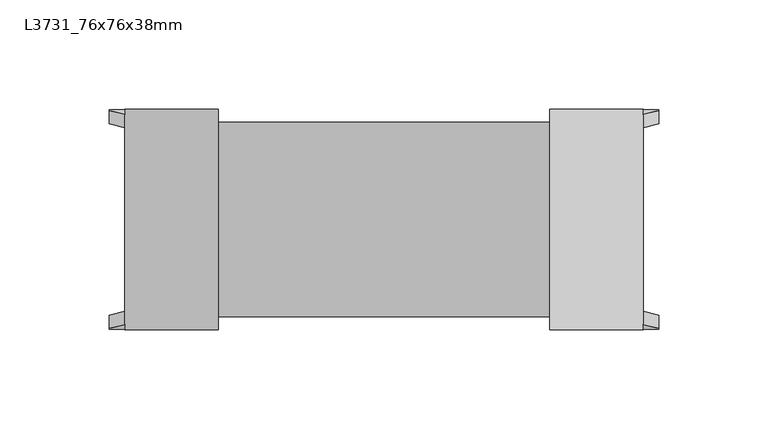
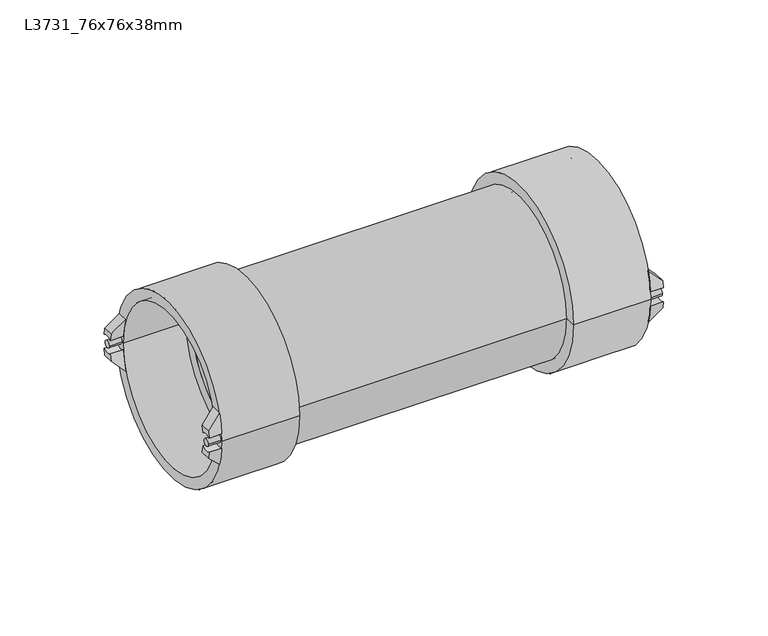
"""IFC4 building model written with IfcOpenShell, lengths in millimetres: pipe fitting geometry, Durapipe_PipeFitting_VulcatheneEnfusion_SingleReducingWye_L37 : L3731_76x76x38mm."""

from ifc_helpers import new_model, si_unit, point, frame, frame_2d, origin, place, context, project, spatial, polyline, circle_curve, ellipse_curve, trimmed, segment, composite_curve, outline, extrude, source, transform, mapped, element, save
from ifc_brep_helpers import plane_surface, cylinder_surface, revolved_surface, advanced_brep


def l3731_76x76x38mm_20f7461c(model_context):
    return source(origin(), model_context, "Body", "SolidModel", [
        advanced_brep(
        [(187.9, -44.4771742, -3.9247261), (187.9, -50.3271742, -4.1743906), (187.9, -49.8718999, -7.94), (187.9, -43.9383534, -7.94), (180.8, -48.2208461, -15.0), (180.8, -50.3271742, -4.1743906), (180.8, -44.4771742, -3.9247261), (180.8, -42.0549938, -15.0)],
        [
            (0, 1, circle_curve(frame((187.9, -47.575, 0.0), z_axis=(-1.0, 0.0, 0.0), x_axis=(0.0, 1.0, 0.0)), 5.0)),
            (1, 2, circle_curve(frame((187.9, 0.0, 0.0), z_axis=(1.0, 0.0, 0.0), x_axis=(0.0, 1.0, 0.0)), 50.5)),
            (2, 3),
            (3, 0, circle_curve(frame((187.9, 0.0, 0.0), z_axis=(-1.0, 0.0, 0.0), x_axis=(0.0, 1.0, 0.0)), 44.65)),
            (4, 5, circle_curve(frame((180.8, 0.0, 0.0), z_axis=(-1.0, 0.0, 0.0), x_axis=(0.0, 1.0, 0.0)), 50.5)),
            (5, 6, circle_curve(frame((180.8, -47.575, 0.0), z_axis=(1.0, 0.0, 0.0), x_axis=(0.0, 1.0, 0.0)), 5.0)),
            (6, 7, circle_curve(frame((180.8, 0.0, 0.0), z_axis=(1.0, 0.0, 0.0), x_axis=(0.0, 1.0, 0.0)), 44.65)),
            (7, 4),
            (6, 0),
            (3, 7, ellipse_curve(frame((195.8849858, 0.0, 0.0), z_axis=(0.705106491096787, 0.0, -0.7091014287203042), x_axis=(-0.7091014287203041, 0.0, -0.705106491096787)), 63.3237682, 44.65)),
            (4, 2, ellipse_curve(frame((195.8849858, 0.0, 0.0), z_axis=(-0.705106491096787, 0.0, 0.7091014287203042), x_axis=(0.7091014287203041, 0.0, 0.705106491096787)), 71.6203873, 50.5)),
            (1, 5),
        ],
        [
            plane_surface(frame((187.9, -48.2208461, -15.0), z_axis=(1.0, 0.0, 0.0), x_axis=(0.0, 1.0, 0.0))),
            plane_surface(frame((180.8, -48.2208461, -15.0), z_axis=(-1.0, 0.0, 0.0), x_axis=(0.0, -1.0, 0.0))),
            revolved_surface(polyline([(150.98201129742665, 44.65, 0.0), (240.78796030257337, 44.65, 0.0)]), (180.8, 0.0, 0.0), (-1.0, 0.0, 0.0)),
            cylinder_surface(frame((180.8, 0.0, 0.0), z_axis=(1.0, 0.0, 0.0), x_axis=(0.0, 1.0, 0.0)), 50.5),
            revolved_surface(polyline([(187.9, -42.575, 0.0), (180.8, -42.575, 0.0)]), (180.8, -47.575, 0.0), (1.0, 0.0, 0.0)),
            plane_surface(frame((180.8, 50.5, -15.0), z_axis=(0.705106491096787, 0.0, -0.7091014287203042), x_axis=(0.0, -1.0, 0.0))),
        ],
        [
            (0, [[1, 2, 3, 4]]),
            (1, [[5, 6, 7, 8]]),
            (2, [[-7, 9, -4, 10]]),
            (3, [[-5, 11, -2, 12]]),
            (4, [[-1, -9, -6, -12]]),
            (5, [[-3, -11, -8, -10]]),
        ],
    ),
        advanced_brep(
        [(187.9, -50.3271742, 4.1743906), (187.9, -44.4771742, 3.9247261), (187.9, -43.9383534, 7.94), (187.9, -49.8718999, 7.94), (180.8, -50.3271742, 4.1743906), (180.8, -48.2208461, 15.0), (180.8, -42.0549938, 15.0), (180.8, -44.4771742, 3.9247261)],
        [
            (0, 1, circle_curve(frame((187.9, -47.575, 0.0), z_axis=(-1.0, 0.0, 0.0), x_axis=(0.0, 1.0, 0.0)), 5.0)),
            (1, 2, circle_curve(frame((187.9, 0.0, 0.0), z_axis=(-1.0, 0.0, 0.0), x_axis=(0.0, 1.0, 0.0)), 44.65)),
            (2, 3),
            (3, 0, circle_curve(frame((187.9, 0.0, 0.0), z_axis=(1.0, 0.0, 0.0), x_axis=(0.0, 1.0, 0.0)), 50.5)),
            (4, 5, circle_curve(frame((180.8, 0.0, 0.0), z_axis=(-1.0, 0.0, 0.0), x_axis=(0.0, 1.0, 0.0)), 50.5)),
            (5, 6),
            (6, 7, circle_curve(frame((180.8, 0.0, 0.0), z_axis=(1.0, 0.0, 0.0), x_axis=(0.0, 1.0, 0.0)), 44.65)),
            (7, 4, circle_curve(frame((180.8, -47.575, 0.0), z_axis=(1.0, 0.0, 0.0), x_axis=(0.0, 1.0, 0.0)), 5.0)),
            (6, 2, ellipse_curve(frame((195.8849858, 0.0, 0.0), z_axis=(0.7051064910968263, 0.0, 0.7091014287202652), x_axis=(-0.7091014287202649, 0.0, 0.7051064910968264)), 63.3237682, 44.65)),
            (1, 7),
            (4, 0),
            (3, 5, ellipse_curve(frame((195.8849858, 0.0, 0.0), z_axis=(-0.7051064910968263, 0.0, -0.7091014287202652), x_axis=(0.7091014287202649, 0.0, -0.7051064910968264)), 71.6203873, 50.5)),
        ],
        [
            plane_surface(frame((187.9, -48.2208461, -15.0), z_axis=(1.0, 0.0, 0.0), x_axis=(0.0, 1.0, 0.0))),
            plane_surface(frame((180.8, -48.2208461, -15.0), z_axis=(-1.0, 0.0, 0.0), x_axis=(0.0, -1.0, 0.0))),
            revolved_surface(polyline([(150.98201129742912, 44.65, 0.0), (240.7879603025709, 44.65, 0.0)]), (180.8, 0.0, 0.0), (-1.0, 0.0, 0.0)),
            cylinder_surface(frame((180.8, 0.0, 0.0), z_axis=(1.0, 0.0, 0.0), x_axis=(0.0, 1.0, 0.0)), 50.5),
            revolved_surface(polyline([(187.9, -42.575, 0.0), (180.8, -42.575, 0.0)]), (180.8, -47.575, 0.0), (1.0, 0.0, 0.0)),
            plane_surface(frame((187.9, 50.5, 7.94), z_axis=(0.7051064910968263, 0.0, 0.7091014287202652), x_axis=(0.0, -1.0, 0.0))),
        ],
        [
            (0, [[1, 2, 3, 4]]),
            (1, [[5, 6, 7, 8]]),
            (2, [[-7, 9, -2, 10]]),
            (3, [[-5, 11, -4, 12]]),
            (4, [[-1, -11, -8, -10]]),
            (5, [[-3, -9, -6, -12]]),
        ],
    ),
        advanced_brep(
        [(187.9, 50.3271742, -4.1743906), (187.9, 44.4771742, -3.9247261), (187.9, 43.9383534, -7.94), (187.9, 49.8718999, -7.94), (180.8, 50.3271742, -4.1743906), (180.8, 48.2208461, -15.0), (180.8, 42.0549938, -15.0), (180.8, 44.4771742, -3.9247261)],
        [
            (0, 1, circle_curve(frame((187.9, 47.575, 0.0), z_axis=(-1.0, 0.0, 0.0), x_axis=(0.0, 1.0, 0.0)), 5.0)),
            (1, 2, circle_curve(frame((187.9, 0.0, 0.0), z_axis=(-1.0, 0.0, 0.0), x_axis=(0.0, 1.0, 0.0)), 44.65)),
            (2, 3),
            (3, 0, circle_curve(frame((187.9, 0.0, 0.0), z_axis=(1.0, 0.0, 0.0), x_axis=(0.0, 1.0, 0.0)), 50.5)),
            (4, 5, circle_curve(frame((180.8, 0.0, 0.0), z_axis=(-1.0, 0.0, 0.0), x_axis=(0.0, 1.0, 0.0)), 50.5)),
            (5, 6),
            (6, 7, circle_curve(frame((180.8, 0.0, 0.0), z_axis=(1.0, 0.0, 0.0), x_axis=(0.0, 1.0, 0.0)), 44.65)),
            (7, 4, circle_curve(frame((180.8, 47.575, 0.0), z_axis=(1.0, 0.0, 0.0), x_axis=(0.0, 1.0, 0.0)), 5.0)),
            (6, 2, ellipse_curve(frame((195.8849858, 0.0, 0.0), z_axis=(0.705106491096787, 0.0, -0.7091014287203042), x_axis=(-0.7091014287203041, 0.0, -0.705106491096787)), 63.3237682, 44.65)),
            (1, 7),
            (4, 0),
            (3, 5, ellipse_curve(frame((195.8849858, 0.0, 0.0), z_axis=(-0.705106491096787, 0.0, 0.7091014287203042), x_axis=(0.7091014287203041, 0.0, 0.705106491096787)), 71.6203873, 50.5)),
        ],
        [
            plane_surface(frame((187.9, -48.2208461, -15.0), z_axis=(1.0, 0.0, 0.0), x_axis=(0.0, 1.0, 0.0))),
            plane_surface(frame((180.8, -48.2208461, -15.0), z_axis=(-1.0, 0.0, 0.0), x_axis=(0.0, -1.0, 0.0))),
            revolved_surface(polyline([(150.98201129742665, 44.65, 0.0), (240.78796030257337, 44.65, 0.0)]), (180.8, 0.0, 0.0), (-1.0, 0.0, 0.0)),
            cylinder_surface(frame((180.8, 0.0, 0.0), z_axis=(1.0, 0.0, 0.0), x_axis=(0.0, 1.0, 0.0)), 50.5),
            revolved_surface(polyline([(187.9, 52.575, 0.0), (180.8, 52.575, 0.0)]), (180.8, 47.575, 0.0), (1.0, 0.0, 0.0)),
            plane_surface(frame((180.8, 50.5, -15.0), z_axis=(0.705106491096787, 0.0, -0.7091014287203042), x_axis=(0.0, -1.0, 0.0))),
        ],
        [
            (0, [[1, 2, 3, 4]]),
            (1, [[5, 6, 7, 8]]),
            (2, [[-7, 9, -2, 10]]),
            (3, [[-5, 11, -4, 12]]),
            (4, [[-1, -11, -8, -10]]),
            (5, [[-3, -9, -6, -12]]),
        ],
    ),
        advanced_brep(
        [(187.9, 44.4771742, 3.9247261), (187.9, 50.3271742, 4.1743906), (187.9, 49.8718999, 7.94), (187.9, 43.9383534, 7.94), (180.8, 48.2208461, 15.0), (180.8, 50.3271742, 4.1743906), (180.8, 44.4771742, 3.9247261), (180.8, 42.0549938, 15.0)],
        [
            (0, 1, circle_curve(frame((187.9, 47.575, 0.0), z_axis=(-1.0, 0.0, 0.0), x_axis=(0.0, 1.0, 0.0)), 5.0)),
            (1, 2, circle_curve(frame((187.9, 0.0, 0.0), z_axis=(1.0, 0.0, 0.0), x_axis=(0.0, 1.0, 0.0)), 50.5)),
            (2, 3),
            (3, 0, circle_curve(frame((187.9, 0.0, 0.0), z_axis=(-1.0, 0.0, 0.0), x_axis=(0.0, 1.0, 0.0)), 44.65)),
            (4, 5, circle_curve(frame((180.8, 0.0, 0.0), z_axis=(-1.0, 0.0, 0.0), x_axis=(0.0, 1.0, 0.0)), 50.5)),
            (5, 6, circle_curve(frame((180.8, 47.575, 0.0), z_axis=(1.0, 0.0, 0.0), x_axis=(0.0, 1.0, 0.0)), 5.0)),
            (6, 7, circle_curve(frame((180.8, 0.0, 0.0), z_axis=(1.0, 0.0, 0.0), x_axis=(0.0, 1.0, 0.0)), 44.65)),
            (7, 4),
            (6, 0),
            (3, 7, ellipse_curve(frame((195.8849858, 0.0, 0.0), z_axis=(0.7051064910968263, 0.0, 0.7091014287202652), x_axis=(-0.7091014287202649, 0.0, 0.7051064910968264)), 63.3237682, 44.65)),
            (4, 2, ellipse_curve(frame((195.8849858, 0.0, 0.0), z_axis=(-0.7051064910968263, 0.0, -0.7091014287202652), x_axis=(0.7091014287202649, 0.0, -0.7051064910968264)), 71.6203873, 50.5)),
            (1, 5),
        ],
        [
            plane_surface(frame((187.9, -48.2208461, -15.0), z_axis=(1.0, 0.0, 0.0), x_axis=(0.0, 1.0, 0.0))),
            plane_surface(frame((180.8, -48.2208461, -15.0), z_axis=(-1.0, 0.0, 0.0), x_axis=(0.0, -1.0, 0.0))),
            revolved_surface(polyline([(150.98201129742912, 44.65, 0.0), (240.7879603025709, 44.65, 0.0)]), (180.8, 0.0, 0.0), (-1.0, 0.0, 0.0)),
            cylinder_surface(frame((180.8, 0.0, 0.0), z_axis=(1.0, 0.0, 0.0), x_axis=(0.0, 1.0, 0.0)), 50.5),
            revolved_surface(polyline([(187.9, 52.575, 0.0), (180.8, 52.575, 0.0)]), (180.8, 47.575, 0.0), (1.0, 0.0, 0.0)),
            plane_surface(frame((187.9, 50.5, 7.94), z_axis=(0.7051064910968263, 0.0, 0.7091014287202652), x_axis=(0.0, -1.0, 0.0))),
        ],
        [
            (0, [[1, 2, 3, 4]]),
            (1, [[5, 6, 7, 8]]),
            (2, [[-7, 9, -4, 10]]),
            (3, [[-5, 11, -2, 12]]),
            (4, [[-1, -9, -6, -12]]),
            (5, [[-3, -11, -8, -10]]),
        ],
    ),
        extrude(outline(composite_curve([segment(trimmed(circle_curve(frame_2d((-47.575, 0.0)), 2.0), [point((-49.575, 0.0))], [point((-45.575, 0.0))], False, "CARTESIAN"), True, "CONTINUOUS"), segment(trimmed(circle_curve(frame_2d((-47.575, 0.0)), 2.0), [point((-45.575, 0.0))], [point((-49.575, 0.0))], False, "CARTESIAN"), True, "CONTINUOUS")], self_intersect=False)), frame((180.8, 0.0, 0.0), z_axis=(1.0, 0.0, 0.0), x_axis=(0.0, 1.0, 0.0)), (0.0, 0.0, 1.0), 7.1),
        extrude(outline(composite_curve([segment(trimmed(circle_curve(frame_2d((47.575, 0.0)), 2.0), [point((45.575, 0.0))], [point((49.575, 0.0))], False, "CARTESIAN"), True, "CONTINUOUS"), segment(trimmed(circle_curve(frame_2d((47.575, 0.0)), 2.0), [point((49.575, 0.0))], [point((45.575, 0.0))], False, "CARTESIAN"), True, "CONTINUOUS")], self_intersect=False)), frame((180.8, 0.0, 0.0), z_axis=(1.0, 0.0, 0.0), x_axis=(0.0, 1.0, 0.0)), (0.0, 0.0, 1.0), 7.1),
        advanced_brep(
        [(145.8, -38.0, 0.0), (145.8, 38.0, 0.0), (145.8, 44.5, 0.0), (145.8, -44.5, 0.0), (137.8, -38.0, 0.0), (137.8, 38.0, 0.0), (137.8, -50.65, 0.0), (137.8, 50.65, 0.0), (180.8, -50.65, 0.0), (180.8, 50.65, 0.0), (180.8, -44.5, 0.0), (180.8, 44.5, 0.0)],
        [
            (0, 1, circle_curve(frame((145.8, 0.0, 0.0), z_axis=(-1.0, 0.0, 0.0), x_axis=(0.0, 1.0, 0.0)), 38.0)),
            (1, 2),
            (2, 3, circle_curve(frame((145.8, 0.0, 0.0), z_axis=(1.0, 0.0, 0.0), x_axis=(0.0, 1.0, 0.0)), 44.5)),
            (3, 0),
            (1, 0, circle_curve(frame((145.8, 0.0, 0.0), z_axis=(-1.0, 0.0, 0.0), x_axis=(0.0, 1.0, 0.0)), 38.0)),
            (3, 2, circle_curve(frame((145.8, 0.0, 0.0), z_axis=(1.0, 0.0, 0.0), x_axis=(0.0, 1.0, 0.0)), 44.5)),
            (4, 5, circle_curve(frame((137.8, 0.0, 0.0), z_axis=(-1.0, 0.0, 0.0), x_axis=(0.0, 1.0, 0.0)), 38.0)),
            (5, 1),
            (0, 4),
            (5, 4, circle_curve(frame((137.8, 0.0, 0.0), z_axis=(-1.0, 0.0, 0.0), x_axis=(0.0, 1.0, 0.0)), 38.0)),
            (6, 7, circle_curve(frame((137.8, 0.0, 0.0), z_axis=(-1.0, 0.0, 0.0), x_axis=(0.0, 1.0, 0.0)), 50.65)),
            (7, 5),
            (4, 6),
            (7, 6, circle_curve(frame((137.8, 0.0, 0.0), z_axis=(-1.0, 0.0, 0.0), x_axis=(0.0, 1.0, 0.0)), 50.65)),
            (8, 9, circle_curve(frame((180.8, 0.0, 0.0), z_axis=(-1.0, 0.0, 0.0), x_axis=(0.0, 1.0, 0.0)), 50.65)),
            (9, 7),
            (6, 8),
            (9, 8, circle_curve(frame((180.8, 0.0, 0.0), z_axis=(-1.0, 0.0, 0.0), x_axis=(0.0, 1.0, 0.0)), 50.65)),
            (10, 11, circle_curve(frame((180.8, 0.0, 0.0), z_axis=(-1.0, 0.0, 0.0), x_axis=(0.0, 1.0, 0.0)), 44.5)),
            (11, 9),
            (8, 10),
            (11, 10, circle_curve(frame((180.8, 0.0, 0.0), z_axis=(-1.0, 0.0, 0.0), x_axis=(0.0, 1.0, 0.0)), 44.5)),
            (2, 11),
            (10, 3),
        ],
        [
            plane_surface(frame((145.8, 0.0, 0.0), z_axis=(1.0, 0.0, 0.0), x_axis=(0.0, 1.0, 0.0))),
            revolved_surface(polyline([(145.80000000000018, 38.0, 0.0), (137.80000000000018, 38.0, 0.0)]), (2694.7826241, 0.0, 0.0), (1.0, 0.0, 0.0)),
            plane_surface(frame((137.8, 0.0, 0.0), z_axis=(-1.0, 0.0, 0.0), x_axis=(0.0, 1.0, 0.0))),
            cylinder_surface(frame((2694.7826241, 0.0, 0.0), z_axis=(1.0, 0.0, 0.0), x_axis=(0.0, 1.0, 0.0)), 50.65),
            plane_surface(frame((180.8, 0.0, 0.0), z_axis=(1.0, 0.0, 0.0), x_axis=(0.0, 1.0, 0.0))),
            revolved_surface(polyline([(180.80000000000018, 44.5, 0.0), (145.80000000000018, 44.5, 0.0)]), (2694.7826241, 0.0, 0.0), (1.0, 0.0, 0.0)),
        ],
        [
            (0, [[1, 2, 3, 4]]),
            (0, [[5, -4, 6, -2]]),
            (1, [[7, 8, -1, 9]]),
            (1, [[10, -9, -5, -8]]),
            (2, [[11, 12, -7, 13]]),
            (2, [[14, -13, -10, -12]]),
            (3, [[15, 16, -11, 17]]),
            (3, [[18, -17, -14, -16]]),
            (4, [[19, 20, -15, 21]]),
            (4, [[22, -21, -18, -20]]),
            (5, [[-3, 23, -19, 24]]),
            (5, [[-6, -24, -22, -23]]),
        ],
    ),
        advanced_brep(
        [(-64.3, -44.4771742, 3.9247261), (-64.3, -50.3271742, 4.1743906), (-64.3, -49.8718999, 7.94), (-64.3, -43.9383534, 7.94), (-57.2, -48.2208461, 15.0), (-57.2, -50.3271742, 4.1743906), (-57.2, -44.4771742, 3.9247261), (-57.2, -42.0549938, 15.0)],
        [
            (0, 1, circle_curve(frame((-64.3, -47.575, 0.0), z_axis=(1.0, 0.0, 0.0), x_axis=(0.0, 1.0, 0.0)), 5.0)),
            (1, 2, circle_curve(frame((-64.3, 0.0, 0.0), z_axis=(-1.0, 0.0, 0.0), x_axis=(0.0, 1.0, 0.0)), 50.5)),
            (2, 3),
            (3, 0, circle_curve(frame((-64.3, 0.0, 0.0), z_axis=(1.0, 0.0, 0.0), x_axis=(0.0, 1.0, 0.0)), 44.65)),
            (4, 5, circle_curve(frame((-57.2, 0.0, 0.0), z_axis=(1.0, 0.0, 0.0), x_axis=(0.0, 1.0, 0.0)), 50.5)),
            (5, 6, circle_curve(frame((-57.2, -47.575, 0.0), z_axis=(-1.0, 0.0, 0.0), x_axis=(0.0, 1.0, 0.0)), 5.0)),
            (6, 7, circle_curve(frame((-57.2, 0.0, 0.0), z_axis=(-1.0, 0.0, 0.0), x_axis=(0.0, 1.0, 0.0)), 44.65)),
            (7, 4),
            (6, 0),
            (3, 7, ellipse_curve(frame((-72.2849858, 0.0, 0.0), z_axis=(-0.705106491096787, 0.0, 0.7091014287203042), x_axis=(0.7091014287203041, 0.0, 0.705106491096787)), 63.3237682, 44.65)),
            (4, 2, ellipse_curve(frame((-72.2849858, 0.0, 0.0), z_axis=(0.705106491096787, 0.0, -0.7091014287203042), x_axis=(-0.7091014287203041, 0.0, -0.705106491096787)), 71.6203873, 50.5)),
            (1, 5),
        ],
        [
            plane_surface(frame((-64.3, -48.2208461, 15.0), z_axis=(-1.0, 0.0, 0.0), x_axis=(0.0, 1.0, 0.0))),
            plane_surface(frame((-57.2, -48.2208461, 15.0), z_axis=(1.0, 0.0, 0.0), x_axis=(0.0, -1.0, 0.0))),
            revolved_surface(polyline([(-27.382011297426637, 44.65, 0.0), (-117.18796030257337, 44.65, 0.0)]), (-57.2, 0.0, 0.0), (1.0, 0.0, 0.0)),
            cylinder_surface(frame((-57.2, 0.0, 0.0), z_axis=(-1.0, 0.0, 0.0), x_axis=(0.0, 1.0, 0.0)), 50.5),
            revolved_surface(polyline([(-64.3, -42.575, 0.0), (-57.2, -42.575, 0.0)]), (-57.2, -47.575, 0.0), (-1.0, 0.0, 0.0)),
            plane_surface(frame((-57.2, 50.5, 15.0), z_axis=(-0.705106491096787, 0.0, 0.7091014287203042), x_axis=(0.0, -1.0, 0.0))),
        ],
        [
            (0, [[1, 2, 3, 4]]),
            (1, [[5, 6, 7, 8]]),
            (2, [[-7, 9, -4, 10]]),
            (3, [[-5, 11, -2, 12]]),
            (4, [[-1, -9, -6, -12]]),
            (5, [[-3, -11, -8, -10]]),
        ],
    ),
        advanced_brep(
        [(-64.3, -50.3271742, -4.1743906), (-64.3, -44.4771742, -3.9247261), (-64.3, -43.9383534, -7.94), (-64.3, -49.8718999, -7.94), (-57.2, -50.3271742, -4.1743906), (-57.2, -48.2208461, -15.0), (-57.2, -42.0549938, -15.0), (-57.2, -44.4771742, -3.9247261)],
        [
            (0, 1, circle_curve(frame((-64.3, -47.575, 0.0), z_axis=(1.0, 0.0, 0.0), x_axis=(0.0, 1.0, 0.0)), 5.0)),
            (1, 2, circle_curve(frame((-64.3, 0.0, 0.0), z_axis=(1.0, 0.0, 0.0), x_axis=(0.0, 1.0, 0.0)), 44.65)),
            (2, 3),
            (3, 0, circle_curve(frame((-64.3, 0.0, 0.0), z_axis=(-1.0, 0.0, 0.0), x_axis=(0.0, 1.0, 0.0)), 50.5)),
            (4, 5, circle_curve(frame((-57.2, 0.0, 0.0), z_axis=(1.0, 0.0, 0.0), x_axis=(0.0, 1.0, 0.0)), 50.5)),
            (5, 6),
            (6, 7, circle_curve(frame((-57.2, 0.0, 0.0), z_axis=(-1.0, 0.0, 0.0), x_axis=(0.0, 1.0, 0.0)), 44.65)),
            (7, 4, circle_curve(frame((-57.2, -47.575, 0.0), z_axis=(-1.0, 0.0, 0.0), x_axis=(0.0, 1.0, 0.0)), 5.0)),
            (6, 2, ellipse_curve(frame((-72.2849858, 0.0, 0.0), z_axis=(-0.7051064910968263, 0.0, -0.7091014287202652), x_axis=(0.7091014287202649, 0.0, -0.7051064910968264)), 63.3237682, 44.65)),
            (1, 7),
            (4, 0),
            (3, 5, ellipse_curve(frame((-72.2849858, 0.0, 0.0), z_axis=(0.7051064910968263, 0.0, 0.7091014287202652), x_axis=(-0.7091014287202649, 0.0, 0.7051064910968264)), 71.6203873, 50.5)),
        ],
        [
            plane_surface(frame((-64.3, -48.2208461, 15.0), z_axis=(-1.0, 0.0, 0.0), x_axis=(0.0, 1.0, 0.0))),
            plane_surface(frame((-57.2, -48.2208461, 15.0), z_axis=(1.0, 0.0, 0.0), x_axis=(0.0, -1.0, 0.0))),
            revolved_surface(polyline([(-27.382011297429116, 44.65, 0.0), (-117.18796030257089, 44.65, 0.0)]), (-57.2, 0.0, 0.0), (1.0, 0.0, 0.0)),
            cylinder_surface(frame((-57.2, 0.0, 0.0), z_axis=(-1.0, 0.0, 0.0), x_axis=(0.0, 1.0, 0.0)), 50.5),
            revolved_surface(polyline([(-64.3, -42.575, 0.0), (-57.2, -42.575, 0.0)]), (-57.2, -47.575, 0.0), (-1.0, 0.0, 0.0)),
            plane_surface(frame((-64.3, 50.5, -7.94), z_axis=(-0.7051064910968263, 0.0, -0.7091014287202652), x_axis=(0.0, -1.0, 0.0))),
        ],
        [
            (0, [[1, 2, 3, 4]]),
            (1, [[5, 6, 7, 8]]),
            (2, [[-7, 9, -2, 10]]),
            (3, [[-5, 11, -4, 12]]),
            (4, [[-1, -11, -8, -10]]),
            (5, [[-3, -9, -6, -12]]),
        ],
    ),
        advanced_brep(
        [(-64.3, 50.3271742, 4.1743906), (-64.3, 44.4771742, 3.9247261), (-64.3, 43.9383534, 7.94), (-64.3, 49.8718999, 7.94), (-57.2, 50.3271742, 4.1743906), (-57.2, 48.2208461, 15.0), (-57.2, 42.0549938, 15.0), (-57.2, 44.4771742, 3.9247261)],
        [
            (0, 1, circle_curve(frame((-64.3, 47.575, 0.0), z_axis=(1.0, 0.0, 0.0), x_axis=(0.0, 1.0, 0.0)), 5.0)),
            (1, 2, circle_curve(frame((-64.3, 0.0, 0.0), z_axis=(1.0, 0.0, 0.0), x_axis=(0.0, 1.0, 0.0)), 44.65)),
            (2, 3),
            (3, 0, circle_curve(frame((-64.3, 0.0, 0.0), z_axis=(-1.0, 0.0, 0.0), x_axis=(0.0, 1.0, 0.0)), 50.5)),
            (4, 5, circle_curve(frame((-57.2, 0.0, 0.0), z_axis=(1.0, 0.0, 0.0), x_axis=(0.0, 1.0, 0.0)), 50.5)),
            (5, 6),
            (6, 7, circle_curve(frame((-57.2, 0.0, 0.0), z_axis=(-1.0, 0.0, 0.0), x_axis=(0.0, 1.0, 0.0)), 44.65)),
            (7, 4, circle_curve(frame((-57.2, 47.575, 0.0), z_axis=(-1.0, 0.0, 0.0), x_axis=(0.0, 1.0, 0.0)), 5.0)),
            (6, 2, ellipse_curve(frame((-72.2849858, 0.0, 0.0), z_axis=(-0.705106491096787, 0.0, 0.7091014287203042), x_axis=(0.7091014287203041, 0.0, 0.705106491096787)), 63.3237682, 44.65)),
            (1, 7),
            (4, 0),
            (3, 5, ellipse_curve(frame((-72.2849858, 0.0, 0.0), z_axis=(0.705106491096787, 0.0, -0.7091014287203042), x_axis=(-0.7091014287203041, 0.0, -0.705106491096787)), 71.6203873, 50.5)),
        ],
        [
            plane_surface(frame((-64.3, -48.2208461, 15.0), z_axis=(-1.0, 0.0, 0.0), x_axis=(0.0, 1.0, 0.0))),
            plane_surface(frame((-57.2, -48.2208461, 15.0), z_axis=(1.0, 0.0, 0.0), x_axis=(0.0, -1.0, 0.0))),
            revolved_surface(polyline([(-27.382011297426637, 44.65, 0.0), (-117.18796030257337, 44.65, 0.0)]), (-57.2, 0.0, 0.0), (1.0, 0.0, 0.0)),
            cylinder_surface(frame((-57.2, 0.0, 0.0), z_axis=(-1.0, 0.0, 0.0), x_axis=(0.0, 1.0, 0.0)), 50.5),
            revolved_surface(polyline([(-64.3, 52.575, 0.0), (-57.2, 52.575, 0.0)]), (-57.2, 47.575, 0.0), (-1.0, 0.0, 0.0)),
            plane_surface(frame((-57.2, 50.5, 15.0), z_axis=(-0.705106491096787, 0.0, 0.7091014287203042), x_axis=(0.0, -1.0, 0.0))),
        ],
        [
            (0, [[1, 2, 3, 4]]),
            (1, [[5, 6, 7, 8]]),
            (2, [[-7, 9, -2, 10]]),
            (3, [[-5, 11, -4, 12]]),
            (4, [[-1, -11, -8, -10]]),
            (5, [[-3, -9, -6, -12]]),
        ],
    ),
        advanced_brep(
        [(-64.3, 44.4771742, -3.9247261), (-64.3, 50.3271742, -4.1743906), (-64.3, 49.8718999, -7.94), (-64.3, 43.9383534, -7.94), (-57.2, 48.2208461, -15.0), (-57.2, 50.3271742, -4.1743906), (-57.2, 44.4771742, -3.9247261), (-57.2, 42.0549938, -15.0)],
        [
            (0, 1, circle_curve(frame((-64.3, 47.575, 0.0), z_axis=(1.0, 0.0, 0.0), x_axis=(0.0, 1.0, 0.0)), 5.0)),
            (1, 2, circle_curve(frame((-64.3, 0.0, 0.0), z_axis=(-1.0, 0.0, 0.0), x_axis=(0.0, 1.0, 0.0)), 50.5)),
            (2, 3),
            (3, 0, circle_curve(frame((-64.3, 0.0, 0.0), z_axis=(1.0, 0.0, 0.0), x_axis=(0.0, 1.0, 0.0)), 44.65)),
            (4, 5, circle_curve(frame((-57.2, 0.0, 0.0), z_axis=(1.0, 0.0, 0.0), x_axis=(0.0, 1.0, 0.0)), 50.5)),
            (5, 6, circle_curve(frame((-57.2, 47.575, 0.0), z_axis=(-1.0, 0.0, 0.0), x_axis=(0.0, 1.0, 0.0)), 5.0)),
            (6, 7, circle_curve(frame((-57.2, 0.0, 0.0), z_axis=(-1.0, 0.0, 0.0), x_axis=(0.0, 1.0, 0.0)), 44.65)),
            (7, 4),
            (6, 0),
            (3, 7, ellipse_curve(frame((-72.2849858, 0.0, 0.0), z_axis=(-0.7051064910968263, 0.0, -0.7091014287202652), x_axis=(0.7091014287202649, 0.0, -0.7051064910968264)), 63.3237682, 44.65)),
            (4, 2, ellipse_curve(frame((-72.2849858, 0.0, 0.0), z_axis=(0.7051064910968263, 0.0, 0.7091014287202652), x_axis=(-0.7091014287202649, 0.0, 0.7051064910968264)), 71.6203873, 50.5)),
            (1, 5),
        ],
        [
            plane_surface(frame((-64.3, -48.2208461, 15.0), z_axis=(-1.0, 0.0, 0.0), x_axis=(0.0, 1.0, 0.0))),
            plane_surface(frame((-57.2, -48.2208461, 15.0), z_axis=(1.0, 0.0, 0.0), x_axis=(0.0, -1.0, 0.0))),
            revolved_surface(polyline([(-27.382011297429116, 44.65, 0.0), (-117.18796030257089, 44.65, 0.0)]), (-57.2, 0.0, 0.0), (1.0, 0.0, 0.0)),
            cylinder_surface(frame((-57.2, 0.0, 0.0), z_axis=(-1.0, 0.0, 0.0), x_axis=(0.0, 1.0, 0.0)), 50.5),
            revolved_surface(polyline([(-64.3, 52.575, 0.0), (-57.2, 52.575, 0.0)]), (-57.2, 47.575, 0.0), (-1.0, 0.0, 0.0)),
            plane_surface(frame((-64.3, 50.5, -7.94), z_axis=(-0.7051064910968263, 0.0, -0.7091014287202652), x_axis=(0.0, -1.0, 0.0))),
        ],
        [
            (0, [[1, 2, 3, 4]]),
            (1, [[5, 6, 7, 8]]),
            (2, [[-7, 9, -4, 10]]),
            (3, [[-5, 11, -2, 12]]),
            (4, [[-1, -9, -6, -12]]),
            (5, [[-3, -11, -8, -10]]),
        ],
    ),
        extrude(outline(composite_curve([segment(trimmed(circle_curve(frame_2d((-47.575, 0.0)), 2.0), [point((-49.575, 0.0))], [point((-45.575, 0.0))], False, "CARTESIAN"), True, "CONTINUOUS"), segment(trimmed(circle_curve(frame_2d((-47.575, 0.0)), 2.0), [point((-45.575, 0.0))], [point((-49.575, 0.0))], False, "CARTESIAN"), True, "CONTINUOUS")], self_intersect=False)), frame((-64.3, 0.0, 0.0), z_axis=(1.0, 0.0, 0.0), x_axis=(0.0, 1.0, 0.0)), (0.0, 0.0, 1.0), 7.1),
        extrude(outline(composite_curve([segment(trimmed(circle_curve(frame_2d((47.575, 0.0)), 2.0), [point((45.575, 0.0))], [point((49.575, 0.0))], False, "CARTESIAN"), True, "CONTINUOUS"), segment(trimmed(circle_curve(frame_2d((47.575, 0.0)), 2.0), [point((49.575, 0.0))], [point((45.575, 0.0))], False, "CARTESIAN"), True, "CONTINUOUS")], self_intersect=False)), frame((-64.3, 0.0, 0.0), z_axis=(1.0, 0.0, 0.0), x_axis=(0.0, 1.0, 0.0)), (0.0, 0.0, 1.0), 7.1),
        advanced_brep(
        [(-22.2, -38.0, 0.0), (-22.2, 38.0, 0.0), (-22.2, 44.5, 0.0), (-22.2, -44.5, 0.0), (-14.2, -38.0, 0.0), (-14.2, 38.0, 0.0), (-14.2, -50.65, 0.0), (-14.2, 50.65, 0.0), (-57.2, -50.65, 0.0), (-57.2, 50.65, 0.0), (-57.2, -44.5, 0.0), (-57.2, 44.5, 0.0)],
        [
            (0, 1, circle_curve(frame((-22.2, 0.0, 0.0), z_axis=(1.0, 0.0, 0.0), x_axis=(0.0, 1.0, 0.0)), 38.0)),
            (1, 2),
            (2, 3, circle_curve(frame((-22.2, 0.0, 0.0), z_axis=(-1.0, 0.0, 0.0), x_axis=(0.0, 1.0, 0.0)), 44.5)),
            (3, 0),
            (1, 0, circle_curve(frame((-22.2, 0.0, 0.0), z_axis=(1.0, 0.0, 0.0), x_axis=(0.0, 1.0, 0.0)), 38.0)),
            (3, 2, circle_curve(frame((-22.2, 0.0, 0.0), z_axis=(-1.0, 0.0, 0.0), x_axis=(0.0, 1.0, 0.0)), 44.5)),
            (4, 5, circle_curve(frame((-14.2, 0.0, 0.0), z_axis=(1.0, 0.0, 0.0), x_axis=(0.0, 1.0, 0.0)), 38.0)),
            (5, 1),
            (0, 4),
            (5, 4, circle_curve(frame((-14.2, 0.0, 0.0), z_axis=(1.0, 0.0, 0.0), x_axis=(0.0, 1.0, 0.0)), 38.0)),
            (6, 7, circle_curve(frame((-14.2, 0.0, 0.0), z_axis=(1.0, 0.0, 0.0), x_axis=(0.0, 1.0, 0.0)), 50.65)),
            (7, 5),
            (4, 6),
            (7, 6, circle_curve(frame((-14.2, 0.0, 0.0), z_axis=(1.0, 0.0, 0.0), x_axis=(0.0, 1.0, 0.0)), 50.65)),
            (8, 9, circle_curve(frame((-57.2, 0.0, 0.0), z_axis=(1.0, 0.0, 0.0), x_axis=(0.0, 1.0, 0.0)), 50.65)),
            (9, 7),
            (6, 8),
            (9, 8, circle_curve(frame((-57.2, 0.0, 0.0), z_axis=(1.0, 0.0, 0.0), x_axis=(0.0, 1.0, 0.0)), 50.65)),
            (10, 11, circle_curve(frame((-57.2, 0.0, 0.0), z_axis=(1.0, 0.0, 0.0), x_axis=(0.0, 1.0, 0.0)), 44.5)),
            (11, 9),
            (8, 10),
            (11, 10, circle_curve(frame((-57.2, 0.0, 0.0), z_axis=(1.0, 0.0, 0.0), x_axis=(0.0, 1.0, 0.0)), 44.5)),
            (2, 11),
            (10, 3),
        ],
        [
            plane_surface(frame((-22.2, 0.0, 0.0), z_axis=(-1.0, 0.0, 0.0), x_axis=(0.0, 1.0, 0.0))),
            revolved_surface(polyline([(-22.199999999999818, 38.0, 0.0), (-14.199999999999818, 38.0, 0.0)]), (-2571.1826241, 0.0, 0.0), (-1.0, 0.0, 0.0)),
            plane_surface(frame((-14.2, 0.0, 0.0), z_axis=(1.0, 0.0, 0.0), x_axis=(0.0, 1.0, 0.0))),
            cylinder_surface(frame((-2571.1826241, 0.0, 0.0), z_axis=(-1.0, 0.0, 0.0), x_axis=(0.0, 1.0, 0.0)), 50.65),
            plane_surface(frame((-57.2, 0.0, 0.0), z_axis=(-1.0, 0.0, 0.0), x_axis=(0.0, 1.0, 0.0))),
            revolved_surface(polyline([(-57.19999999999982, 44.5, 0.0), (-22.199999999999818, 44.5, 0.0)]), (-2571.1826241, 0.0, 0.0), (-1.0, 0.0, 0.0)),
        ],
        [
            (0, [[1, 2, 3, 4]]),
            (0, [[5, -4, 6, -2]]),
            (1, [[7, 8, -1, 9]]),
            (1, [[10, -9, -5, -8]]),
            (2, [[11, 12, -7, 13]]),
            (2, [[14, -13, -10, -12]]),
            (3, [[15, 16, -11, 17]]),
            (3, [[18, -17, -14, -16]]),
            (4, [[19, 20, -15, 21]]),
            (4, [[22, -21, -18, -20]]),
            (5, [[-3, 23, -19, 24]]),
            (5, [[-6, -24, -22, -23]]),
        ],
    ),
        advanced_brep(
        [(-22.2, 0.0, 0.0), (-22.2, 44.5, 0.0), (-22.2, -44.5, 0.0), (145.8, -44.5, 0.0), (145.8, 44.5, 0.0), (145.8, 0.0, 0.0)],
        [
            (0, 1),
            (1, 2, circle_curve(frame((-22.2, 0.0, 0.0), z_axis=(-1.0, 0.0, 0.0), x_axis=(0.0, 1.0, 0.0)), 44.5)),
            (2, 0),
            (2, 1, circle_curve(frame((-22.2, 0.0, 0.0), z_axis=(-1.0, 0.0, 0.0), x_axis=(0.0, 1.0, 0.0)), 44.5)),
            (3, 4, circle_curve(frame((145.8, 0.0, 0.0), z_axis=(1.0, 0.0, 0.0), x_axis=(0.0, 1.0, 0.0)), 44.5)),
            (4, 5),
            (5, 3),
            (4, 3, circle_curve(frame((145.8, 0.0, 0.0), z_axis=(1.0, 0.0, 0.0), x_axis=(0.0, 1.0, 0.0)), 44.5)),
            (1, 4),
            (3, 2),
        ],
        [
            plane_surface(frame((-22.2, 0.0, 0.0), z_axis=(-1.0, 0.0, 0.0), x_axis=(0.0, 1.0, 0.0))),
            plane_surface(frame((145.8, 0.0, 0.0), z_axis=(1.0, 0.0, 0.0), x_axis=(0.0, 1.0, 0.0))),
            cylinder_surface(frame((170.8, 0.0, 0.0), z_axis=(-1.0, 0.0, 0.0), x_axis=(0.0, 1.0, 0.0)), 44.5),
        ],
        [
            (0, [[1, 2, 3]]),
            (0, [[-3, 4, -1]]),
            (1, [[5, 6, 7]]),
            (1, [[8, -7, -6]]),
            (2, [[-2, 9, -5, 10]]),
            (2, [[-4, -10, -8, -9]]),
        ],
    ),
    ])


if __name__ == "__main__":
    model = new_model("IFC4")
    model_context = context("Model", 3, world=origin())
    ifc_project = project(units=[si_unit("LENGTHUNIT", "METRE", prefix="MILLI")], contexts=[model_context])
    site = spatial("IfcSite", under=ifc_project)
    building = spatial("IfcBuilding", under=site)
    placement = place(None, origin())
    l3731_76x76x38mm_shape = l3731_76x76x38mm_20f7461c(model_context)
    element("IfcPipeFitting", 1, ObjectType="Durapipe_PipeFitting_VulcatheneEnfusion_SingleReducingWye_L37 : L3731_76x76x38mm", at=placement, inside=building, context=model_context, shape_type="MappedRepresentation", body=[
        mapped(l3731_76x76x38mm_shape, transform((0.0, 0.0, 0.0), x_axis=(1.0, 0.0, 0.0), y_axis=(0.0, 1.0, 0.0), z_axis=(0.0, 0.0, 1.0))),
    ])
    save(model, "model.ifc")
